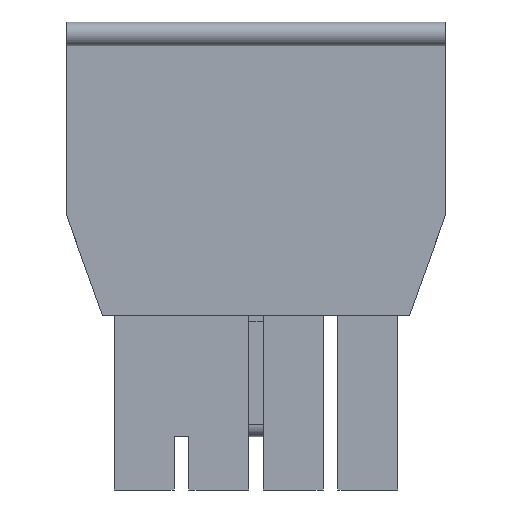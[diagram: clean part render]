
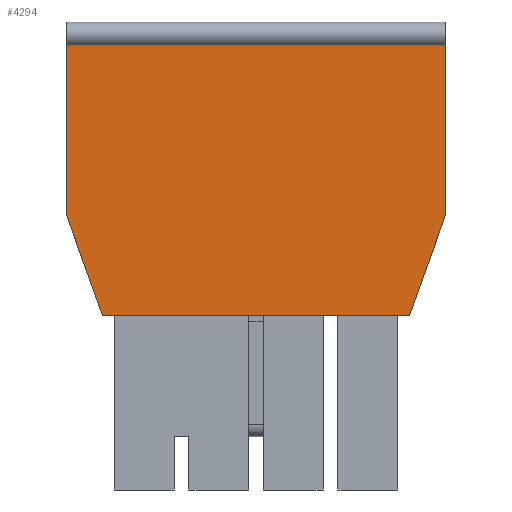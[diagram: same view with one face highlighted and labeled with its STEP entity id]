
A CAD part, front view. The second image highlights one B-rep face of the part: STEP entity #4294.
In plain terms, the highlighted planar face has unit normal (0, -1, 0).
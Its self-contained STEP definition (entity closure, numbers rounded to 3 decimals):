
#26 = EDGE_LOOP ( 'NONE', ( #2702, #1947, #879, #171, #438, #3042 ) ) ;
#171 = ORIENTED_EDGE ( 'NONE', *, *, #1127, .F. ) ;
#438 = ORIENTED_EDGE ( 'NONE', *, *, #4899, .F. ) ;
#683 = CARTESIAN_POINT ( 'NONE',  ( -6.35, -1.72, -1.575 ) ) ;
#808 = DIRECTION ( 'NONE',  ( 0., 1., 0. ) ) ;
#879 = ORIENTED_EDGE ( 'NONE', *, *, #3428, .T. ) ;
#1127 = EDGE_CURVE ( 'NONE', #4752, #4232, #1315, .T. ) ;
#1195 = CARTESIAN_POINT ( 'NONE',  ( -5.15, -1.72, -4.925 ) ) ;
#1315 = LINE ( 'NONE', #3267, #1386 ) ;
#1345 = CARTESIAN_POINT ( 'NONE',  ( 5.15, -1.72, -4.925 ) ) ;
#1386 = VECTOR ( 'NONE', #4779, 1000. ) ;
#1424 = VECTOR ( 'NONE', #2405, 1000. ) ;
#1947 = ORIENTED_EDGE ( 'NONE', *, *, #3648, .T. ) ;
#1987 = CARTESIAN_POINT ( 'NONE',  ( 6.35, -1.72, 4.925 ) ) ;
#2022 = DIRECTION ( 'NONE',  ( -0.337, 0., -0.941 ) ) ;
#2337 = DIRECTION ( 'NONE',  ( 0.337, 0., -0.941 ) ) ;
#2405 = DIRECTION ( 'NONE',  ( 0., 0., -1. ) ) ;
#2679 = AXIS2_PLACEMENT_3D ( 'NONE', #4784, #808, #4253 ) ;
#2702 = ORIENTED_EDGE ( 'NONE', *, *, #4005, .F. ) ;
#2988 = LINE ( 'NONE', #4948, #3796 ) ;
#3042 = ORIENTED_EDGE ( 'NONE', *, *, #3563, .F. ) ;
#3267 = CARTESIAN_POINT ( 'NONE',  ( -6.35, -1.72, -4.925 ) ) ;
#3301 = PLANE ( 'NONE',  #2679 ) ;
#3351 = LINE ( 'NONE', #1987, #4423 ) ;
#3374 = VECTOR ( 'NONE', #5493, 1000. ) ;
#3428 = EDGE_CURVE ( 'NONE', #4593, #4232, #4746, .T. ) ;
#3437 = LINE ( 'NONE', #5874, #3374 ) ;
#3563 = EDGE_CURVE ( 'NONE', #4224, #6065, #3351, .T. ) ;
#3648 = EDGE_CURVE ( 'NONE', #5651, #4593, #5793, .T. ) ;
#3796 = VECTOR ( 'NONE', #2022, 1000. ) ;
#4005 = EDGE_CURVE ( 'NONE', #5651, #4224, #3437, .T. ) ;
#4060 = CARTESIAN_POINT ( 'NONE',  ( 6.35, -1.72, 4.125 ) ) ;
#4224 = VERTEX_POINT ( 'NONE', #4060 ) ;
#4232 = VERTEX_POINT ( 'NONE', #1195 ) ;
#4253 = DIRECTION ( 'NONE',  ( 0., 0., 1. ) ) ;
#4289 = CARTESIAN_POINT ( 'NONE',  ( -6.35, -1.72, 4.125 ) ) ;
#4294 = ADVANCED_FACE ( 'NONE', ( #6164 ), #3301, .F. ) ;
#4423 = VECTOR ( 'NONE', #5320, 1000. ) ;
#4593 = VERTEX_POINT ( 'NONE', #683 ) ;
#4717 = VECTOR ( 'NONE', #2337, 1000. ) ;
#4746 = LINE ( 'NONE', #6154, #4717 ) ;
#4752 = VERTEX_POINT ( 'NONE', #1345 ) ;
#4779 = DIRECTION ( 'NONE',  ( -1., 0., 0. ) ) ;
#4784 = CARTESIAN_POINT ( 'NONE',  ( -6.35, -1.72, 4.925 ) ) ;
#4899 = EDGE_CURVE ( 'NONE', #6065, #4752, #2988, .T. ) ;
#4906 = CARTESIAN_POINT ( 'NONE',  ( -6.35, -1.72, 4.925 ) ) ;
#4948 = CARTESIAN_POINT ( 'NONE',  ( 6.969, -1.72, 0.154 ) ) ;
#5320 = DIRECTION ( 'NONE',  ( 0., 0., -1. ) ) ;
#5454 = CARTESIAN_POINT ( 'NONE',  ( 6.35, -1.72, -1.575 ) ) ;
#5493 = DIRECTION ( 'NONE',  ( 1., 0., 0. ) ) ;
#5651 = VERTEX_POINT ( 'NONE', #4289 ) ;
#5793 = LINE ( 'NONE', #4906, #1424 ) ;
#5874 = CARTESIAN_POINT ( 'NONE',  ( -7.481, -1.72, 4.125 ) ) ;
#6065 = VERTEX_POINT ( 'NONE', #5454 ) ;
#6154 = CARTESIAN_POINT ( 'NONE',  ( -8.414, -1.72, 4.186 ) ) ;
#6164 = FACE_OUTER_BOUND ( 'NONE', #26, .T. ) ;
